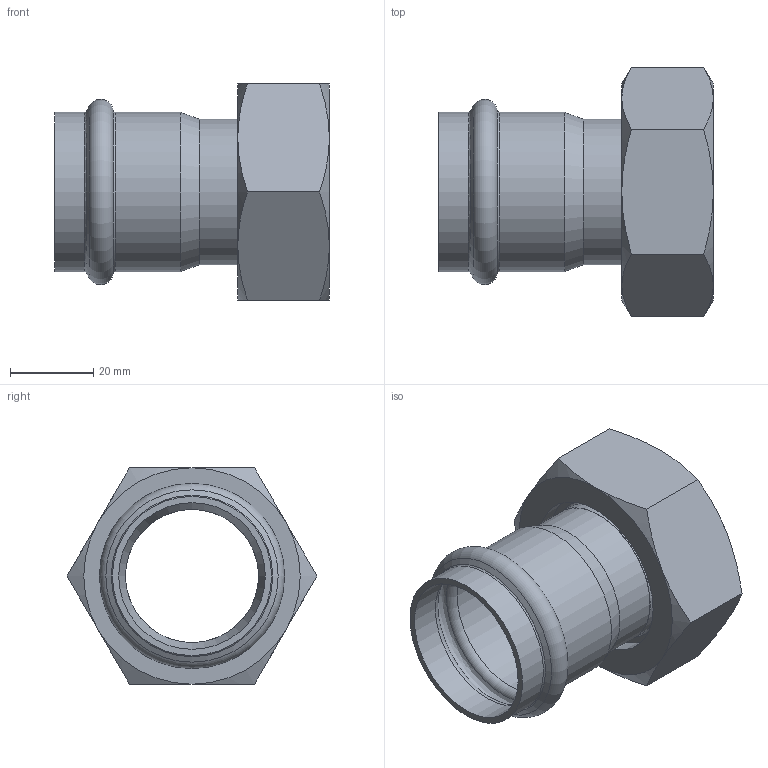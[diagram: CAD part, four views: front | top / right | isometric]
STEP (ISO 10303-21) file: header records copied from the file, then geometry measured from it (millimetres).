
FILE_DESCRIPTION((''),'2;1');
FILE_NAME('G:\Nirosan-Schmiedefeld\Technics\CAD\Bauteile VA\035\69359mms35112(1).stp','2011-01-05T09:12:26',('herberg'),(''),'Autodesk Inventor 2009','Autodesk Inventor 2009','');
FILE_SCHEMA(('AUTOMOTIVE_DESIGN { 1 0 10303 214 1 1 1 1 }'));
Length unit declared in the file: millimetre
Products named in the file (5): 69359mms35112(1); HM_6924335(1); R35112(1); FD_4432_EPDM(0); MS_SM35112(1)
Assembly tree (4 placements, depth 2):
  69359mms35112(1)
    HM_6924335(1)
    R35112(1)
    FD_4432_EPDM(0)
    MS_SM35112(1)
Bounding box: 66 x 60.04 x 52 mm (x, y, z)
Volume: 30849 mm3; surface area: 25190 mm2
Topology: 4 solids, 4 shells, 53 faces, 102 edges, 59 vertices
Faces by surface type: cone 17, plane 15, cylinder 11, bspline 7, torus 3
Full cylindrical faces by diameter (mm): 32 x3, 35 x2, 35.25 x2, 38.25 x2, 43 x1, 44 x1
Entity records: 1569 total; most frequent: CARTESIAN_POINT 493, DIRECTION 208, ORIENTED_EDGE 152, AXIS2_PLACEMENT_3D 101, EDGE_LOOP 88, EDGE_CURVE 76, VERTEX_POINT 58, FACE_OUTER_BOUND 53
